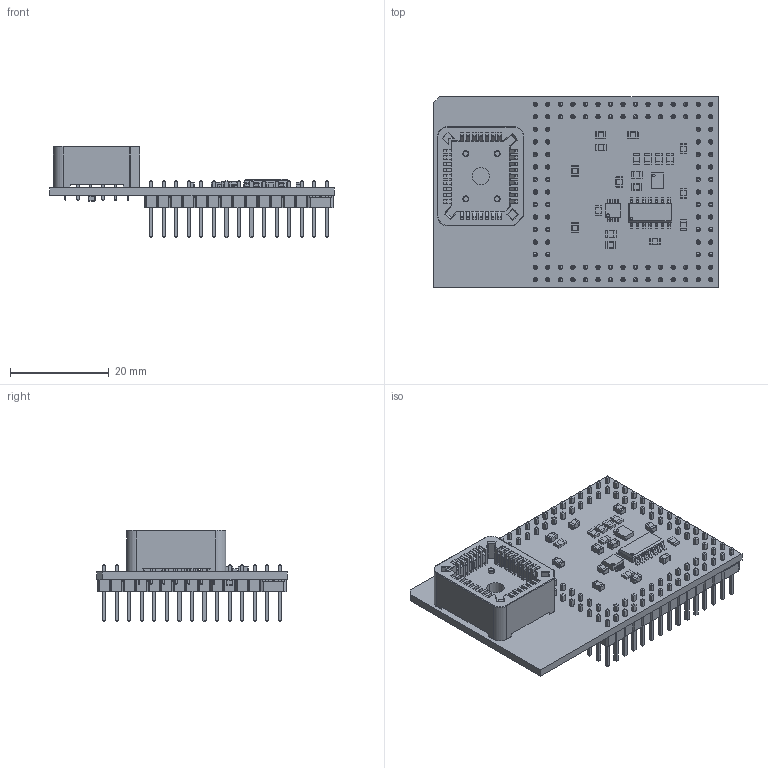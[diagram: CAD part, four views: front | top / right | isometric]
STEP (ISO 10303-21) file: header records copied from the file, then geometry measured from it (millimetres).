
FILE_DESCRIPTION(('Open CASCADE Model'),'2;1');
FILE_NAME('Open CASCADE Shape Model','2020-03-09T16:41:23',('Author'),( 'Open CASCADE'),'Open CASCADE STEP processor 6.8','Open CASCADE 6.8' ,'Unknown');
FILE_SCHEMA(('AUTOMOTIVE_DESIGN { 1 0 10303 214 1 1 1 1 }'));
Length unit declared in the file: millimetre
Products named in the file (63): PCB; Board; C1; CAPC2012X110N; C2; C3; C4; C5; C6; C7; C8; C9; C10; C11; C12; R1; RESC2012X60N; R2; R3; R4; R5; R6; R7; R8; U1; QFP50P2200X2200X170-144N; U2; OSC_ABRACON_ASEMPC; U3; SOP65P400X130-8N; U4; User_Library-PLCC_32_Panel; U5; SOIC127P600X175-14N; Free-Models; 65825; Open CASCADE STEP translator 6.8 1.27.1.1; Open CASCADE STEP translator 6.8 1.27.1.2; Open CASCADE STEP translator 6.8 1.27.1.3; Open CASCADE STEP translator 6.8 1.27.1.4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
Assembly tree (83 placements, depth 4):
  PCB
    Board
    C1
      CAPC2012X110N
    C2
      CAPC2012X110N
    C3
      CAPC2012X110N
    C4
      CAPC2012X110N
    C5
      CAPC2012X110N
    C6
      CAPC2012X110N
    C7
      CAPC2012X110N
    C8
      CAPC2012X110N
    C9
      CAPC2012X110N
    C10
      CAPC2012X110N
    C11
      CAPC2012X110N
    C12
      CAPC2012X110N
    R1
      RESC2012X60N
    R2
      RESC2012X60N
    R3
      RESC2012X60N
    R4
      RESC2012X60N
    R5
      RESC2012X60N
    R6
      RESC2012X60N
    R7
      RESC2012X60N
    R8
      RESC2012X60N
    U1
      QFP50P2200X2200X170-144N
    U2
      OSC_ABRACON_ASEMPC
    U3
      SOP65P400X130-8N
    U4
      User_Library-PLCC_32_Panel
    U5
      SOIC127P600X175-14N
    Free-Models
      65825  x4
        Open CASCADE STEP translator 6.8 1.27.1.1
        Open CASCADE STEP translator 6.8 1.27.1.2
        Open CASCADE STEP translator 6.8 1.27.1.3
        Open CASCADE STEP translator 6.8 1.27.1.4
        Open CASCADE STEP translator 6.8 1.27.1.5
        Open CASCADE STEP translator 6.8 1.27.1.6
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Bounding box: 57.66 x 38.61 x 18.47 mm (x, y, z)
Volume: 7828.4 mm3; surface area: 14523.3 mm2
Topology: 347 solids, 347 shells, 6611 faces, 16290 edges, 10316 vertices
Faces by surface type: plane 5193, cylinder 1115, bspline 189, sphere 100, torus 14
Full cylindrical faces by diameter (mm): 0.8 x32, 0.889 x104
Entity records: 138291 total; most frequent: CARTESIAN_POINT 23130, ORIENTED_EDGE 21148, DIRECTION 20690, EDGE_CURVE 10574, LINE 8578, VECTOR 8578, VERTEX_POINT 6868, AXIS2_PLACEMENT_3D 6056
